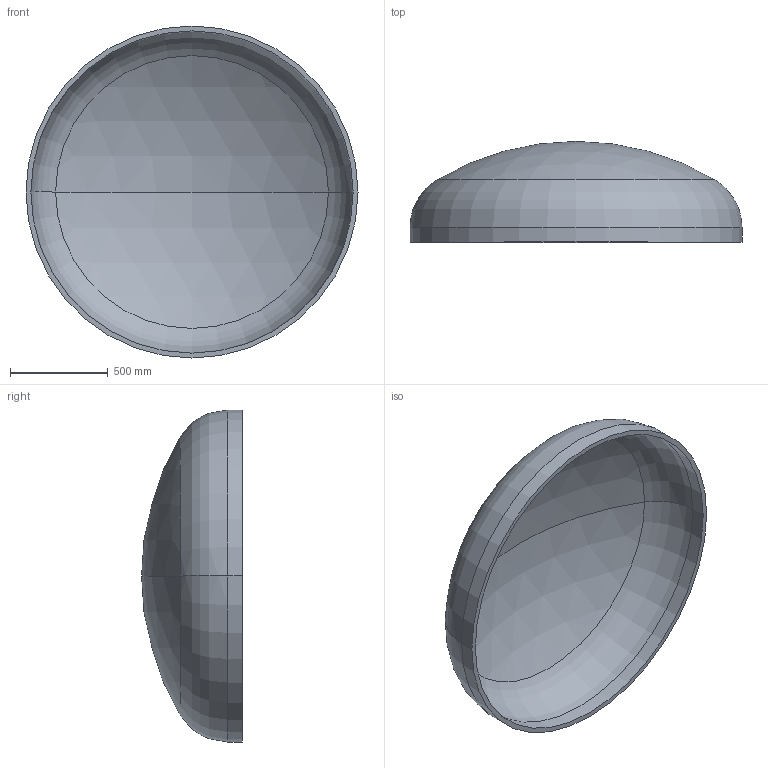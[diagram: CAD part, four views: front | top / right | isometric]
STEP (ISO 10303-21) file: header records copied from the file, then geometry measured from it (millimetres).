
FILE_DESCRIPTION (( 'STEP AP203' ), '1' );
FILE_NAME ('DIN 28013 Korbbogenform_-_Boden DIN 28013 - 1700 x 75 - I - s=25.step', '2016-07-01T11:42:29', ( '' ), ( '' ), 'SwSTEP 2.0', 'SolidWorks 2013', '' );
FILE_SCHEMA (( 'CONFIG_CONTROL_DESIGN' ));
Length unit declared in the file: millimetre
Products named in the file (1): DIN 28013 Korbbogenform_-_Boden DIN 28013 - 1700 x 75 - I - s=25
Bounding box: 1700 x 516.19 x 1700 mm (x, y, z)
Volume: 86841286.6 mm3; surface area: 7080163.7 mm2
Topology: 1 solids, 1 shells, 13 faces, 24 edges, 14 vertices
Faces by surface type: torus 4, cylinder 4, sphere 4, plane 1
Entity records: 407 total; most frequent: DIRECTION 72, CARTESIAN_POINT 52, ORIENTED_EDGE 48, AXIS2_PLACEMENT_3D 34, EDGE_CURVE 24, CIRCLE 20, VERTEX_POINT 14, EDGE_LOOP 14
